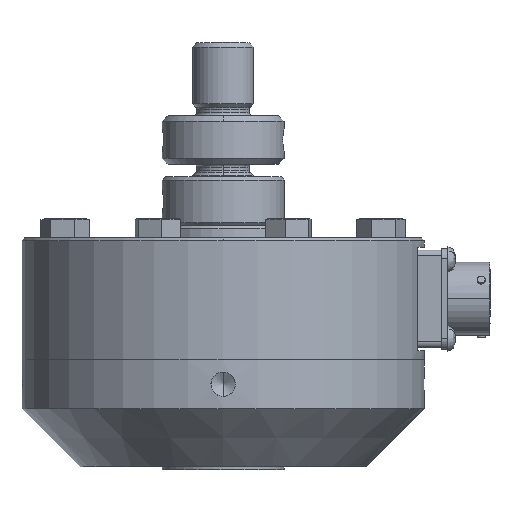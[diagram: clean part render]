
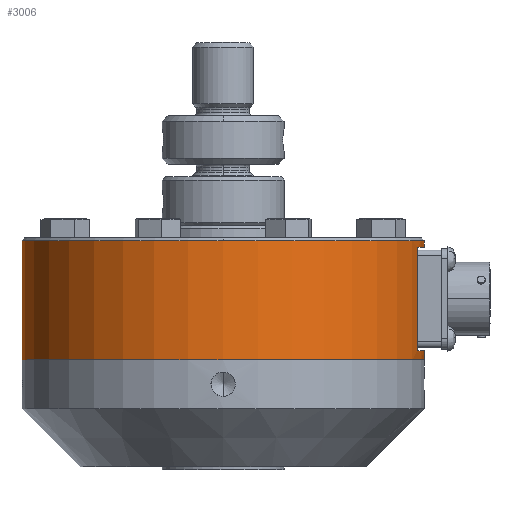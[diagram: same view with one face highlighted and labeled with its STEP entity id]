
A CAD part, front view. The second image highlights one B-rep face of the part: STEP entity #3006.
In plain terms, the highlighted cylindrical face has radius 52.375 mm (diameter 104.75 mm), a partial arc.
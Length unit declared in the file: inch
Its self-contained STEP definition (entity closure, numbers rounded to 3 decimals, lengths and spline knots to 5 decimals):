
#353 = VERTEX_POINT ( 'NONE', #11181 ) ;
#459 = EDGE_CURVE ( 'NONE', #9326, #841, #11261, .T. ) ;
#635 = CARTESIAN_POINT ( 'NONE',  ( 2.062, 0., -0.03 ) ) ;
#841 = VERTEX_POINT ( 'NONE', #11504 ) ;
#862 = ORIENTED_EDGE ( 'NONE', *, *, #459, .F. ) ;
#1222 = CARTESIAN_POINT ( 'NONE',  ( -2.062, 0., -1.25 ) ) ;
#1609 = ORIENTED_EDGE ( 'NONE', *, *, #6778, .F. ) ;
#1784 = CIRCLE ( 'NONE', #1785, 2.062 ) ;
#1785 = AXIS2_PLACEMENT_3D ( 'NONE', #1786, #1787, #1788 ) ;
#1786 = CARTESIAN_POINT ( 'NONE',  ( 0., 0., -0.03 ) ) ;
#1787 = DIRECTION ( 'NONE',  ( 0., 0., 1. ) ) ;
#1788 = DIRECTION ( 'NONE',  ( -1., 0., 0. ) ) ;
#2176 = ORIENTED_EDGE ( 'NONE', *, *, #12234, .F. ) ;
#2225 = CARTESIAN_POINT ( 'NONE',  ( 1.99272, -0.53, -1.155 ) ) ;
#2426 = LINE ( 'NONE', #2427, #2428 ) ;
#2427 = CARTESIAN_POINT ( 'NONE',  ( 1.99272, -0.53, -1.44155 ) ) ;
#2428 = VECTOR ( 'NONE', #2429, 39.37008 ) ;
#2429 = DIRECTION ( 'NONE',  ( 0., 0., 1. ) ) ;
#2751 = EDGE_LOOP ( 'NONE', ( #2176, #1609, #862, #12670, #12099, #11525, #8486, #7919, #7358 ) ) ;
#3006 = ADVANCED_FACE ( 'NONE', ( #12580 ), #12581, .T. ) ;
#3231 = CARTESIAN_POINT ( 'NONE',  ( 2.062, 0., -1.25 ) ) ;
#4418 = CIRCLE ( 'NONE', #4419, 2.062 ) ;
#4419 = AXIS2_PLACEMENT_3D ( 'NONE', #4420, #4421, #4422 ) ;
#4420 = CARTESIAN_POINT ( 'NONE',  ( 0., 0., -1.25 ) ) ;
#4421 = DIRECTION ( 'NONE',  ( 0., 0., 1. ) ) ;
#4422 = DIRECTION ( 'NONE',  ( -1., 0., 0. ) ) ;
#4579 = VERTEX_POINT ( 'NONE', #635 ) ;
#4656 = LINE ( 'NONE', #4657, #4658 ) ;
#4657 = CARTESIAN_POINT ( 'NONE',  ( 2.062, 0., -1.44155 ) ) ;
#4658 = VECTOR ( 'NONE', #4667, 39.37008 ) ;
#4667 = DIRECTION ( 'NONE',  ( 0., 0., -1. ) ) ;
#5432 = CARTESIAN_POINT ( 'NONE',  ( -2.062, 0., -0.03 ) ) ;
#5547 = VERTEX_POINT ( 'NONE', #1222 ) ;
#5583 = LINE ( 'NONE', #5584, #5585 ) ;
#5584 = CARTESIAN_POINT ( 'NONE',  ( 2.062, 0., -1.44155 ) ) ;
#5585 = VECTOR ( 'NONE', #5586, 39.37008 ) ;
#5586 = DIRECTION ( 'NONE',  ( 0., 0., -1. ) ) ;
#6467 = CIRCLE ( 'NONE', #6468, 2.062 ) ;
#6468 = AXIS2_PLACEMENT_3D ( 'NONE', #6469, #6473, #6474 ) ;
#6469 = CARTESIAN_POINT ( 'NONE',  ( 0., 0., -1.155 ) ) ;
#6473 = DIRECTION ( 'NONE',  ( 0., 0., -1. ) ) ;
#6474 = DIRECTION ( 'NONE',  ( -1., 0., 0. ) ) ;
#6778 = EDGE_CURVE ( 'NONE', #841, #4579, #1784, .T. ) ;
#7030 = LINE ( 'NONE', #7031, #7032 ) ;
#7031 = CARTESIAN_POINT ( 'NONE',  ( -2.062, 0., -1.44155 ) ) ;
#7032 = VECTOR ( 'NONE', #7033, 39.37008 ) ;
#7033 = DIRECTION ( 'NONE',  ( 0., 0., -1. ) ) ;
#7257 = CIRCLE ( 'NONE', #7258, 2.062 ) ;
#7258 = AXIS2_PLACEMENT_3D ( 'NONE', #7259, #7260, #7261 ) ;
#7259 = CARTESIAN_POINT ( 'NONE',  ( 0., 0., -0.095 ) ) ;
#7260 = DIRECTION ( 'NONE',  ( 0., 0., 1. ) ) ;
#7261 = DIRECTION ( 'NONE',  ( -1., 0., 0. ) ) ;
#7340 = VERTEX_POINT ( 'NONE', #2225 ) ;
#7358 = ORIENTED_EDGE ( 'NONE', *, *, #10072, .T. ) ;
#7452 = CARTESIAN_POINT ( 'NONE',  ( 2.062, 0., -1.155 ) ) ;
#7581 = EDGE_CURVE ( 'NONE', #7340, #10392, #2426, .T. ) ;
#7919 = ORIENTED_EDGE ( 'NONE', *, *, #7581, .T. ) ;
#8236 = CARTESIAN_POINT ( 'NONE',  ( 1.99272, -0.53, -0.095 ) ) ;
#8340 = VERTEX_POINT ( 'NONE', #3231 ) ;
#8486 = ORIENTED_EDGE ( 'NONE', *, *, #9738, .T. ) ;
#9082 = EDGE_CURVE ( 'NONE', #5547, #8340, #4418, .T. ) ;
#9326 = VERTEX_POINT ( 'NONE', #5432 ) ;
#9392 = EDGE_CURVE ( 'NONE', #10139, #8340, #5583, .T. ) ;
#9738 = EDGE_CURVE ( 'NONE', #10139, #7340, #6467, .T. ) ;
#9976 = EDGE_CURVE ( 'NONE', #9326, #5547, #7030, .T. ) ;
#10072 = EDGE_CURVE ( 'NONE', #10392, #353, #7257, .T. ) ;
#10139 = VERTEX_POINT ( 'NONE', #7452 ) ;
#10392 = VERTEX_POINT ( 'NONE', #8236 ) ;
#11181 = CARTESIAN_POINT ( 'NONE',  ( 2.062, 0., -0.095 ) ) ;
#11261 = CIRCLE ( 'NONE', #11262, 2.062 ) ;
#11262 = AXIS2_PLACEMENT_3D ( 'NONE', #11263, #11264, #11265 ) ;
#11263 = CARTESIAN_POINT ( 'NONE',  ( 0., 0., -0.03 ) ) ;
#11264 = DIRECTION ( 'NONE',  ( 0., 0., 1. ) ) ;
#11265 = DIRECTION ( 'NONE',  ( -1., 0., 0. ) ) ;
#11504 = CARTESIAN_POINT ( 'NONE',  ( 0., -2.062, -0.03 ) ) ;
#11525 = ORIENTED_EDGE ( 'NONE', *, *, #9392, .F. ) ;
#12099 = ORIENTED_EDGE ( 'NONE', *, *, #9082, .T. ) ;
#12234 = EDGE_CURVE ( 'NONE', #4579, #353, #4656, .T. ) ;
#12580 = FACE_OUTER_BOUND ( 'NONE', #2751, .T. ) ;
#12581 = CYLINDRICAL_SURFACE ( 'NONE', #12582, 2.062 ) ;
#12582 = AXIS2_PLACEMENT_3D ( 'NONE', #12583, #12584, #12590 ) ;
#12583 = CARTESIAN_POINT ( 'NONE',  ( 0., 0., -1.44155 ) ) ;
#12584 = DIRECTION ( 'NONE',  ( 0., 0., -1. ) ) ;
#12590 = DIRECTION ( 'NONE',  ( -1., 0., 0. ) ) ;
#12670 = ORIENTED_EDGE ( 'NONE', *, *, #9976, .T. ) ;
